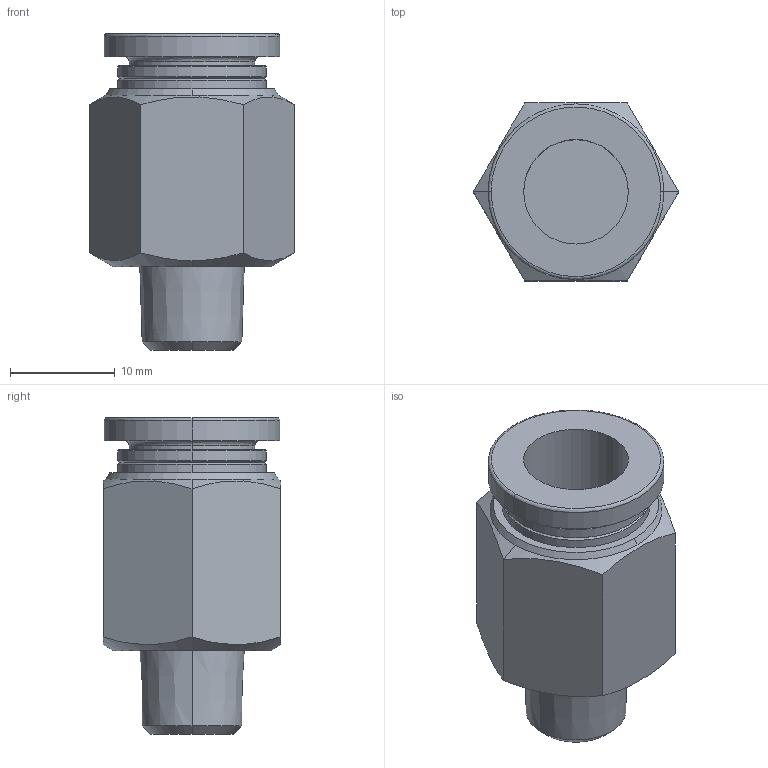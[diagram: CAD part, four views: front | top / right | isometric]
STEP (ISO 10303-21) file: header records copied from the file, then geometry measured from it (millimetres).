
FILE_DESCRIPTION (( 'STEP AP214' ), '1' );
FILE_NAME ('APC10-01.STEP', '2019-12-05T06:19:36', ( '微软用户' ), ( '微软中国' ), 'SwSTEP 2.0', 'SolidWorks 2016', '' );
FILE_SCHEMA (( 'AUTOMOTIVE_DESIGN' ));
Length unit declared in the file: millimetre
Products named in the file (1): APC10-01
Bounding box: 19.63 x 17 x 30.3 mm (x, y, z)
Volume: 4080.8 mm3; surface area: 2757.2 mm2
Topology: 1 solids, 1 shells, 45 faces, 103 edges, 65 vertices
Faces by surface type: cone 18, plane 13, cylinder 10, bspline 4
Entity records: 1804 total; most frequent: CARTESIAN_POINT 756, DIRECTION 220, ORIENTED_EDGE 206, EDGE_CURVE 103, AXIS2_PLACEMENT_3D 93, VERTEX_POINT 65, CIRCLE 51, EDGE_LOOP 50
